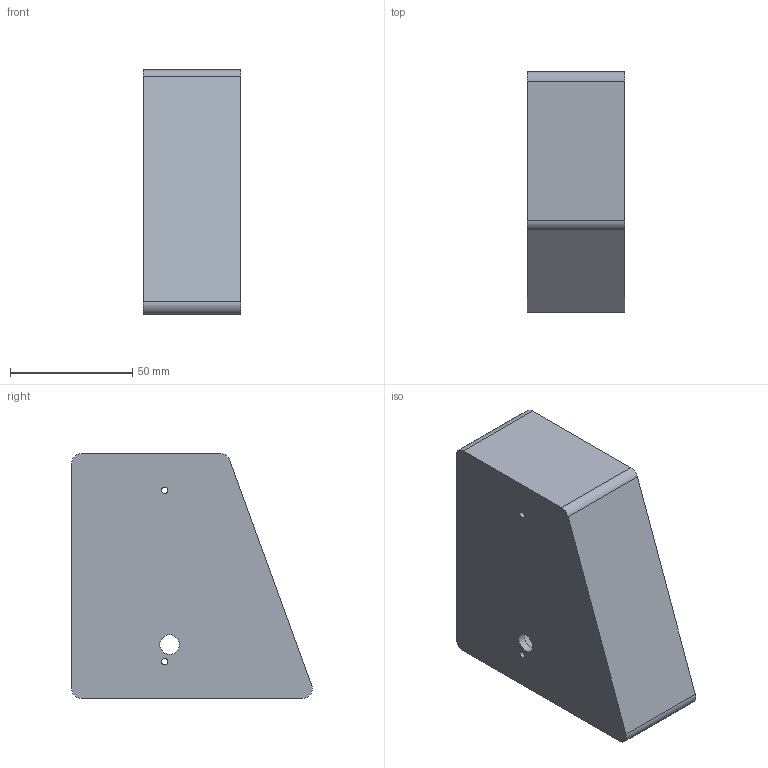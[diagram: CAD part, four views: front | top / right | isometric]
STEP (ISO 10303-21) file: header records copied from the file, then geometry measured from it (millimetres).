
FILE_DESCRIPTION(('Open CASCADE Model'),'2;1');
FILE_NAME('Open CASCADE Shape Model','2026-10-07T20:49:38',('Author'),( 'Open CASCADE'),'Open CASCADE STEP processor 7.9','Open CASCADE 7.9' ,'Unknown');
FILE_SCHEMA(('AUTOMOTIVE_DESIGN { 1 0 10303 214 1 1 1 1 }'));
Length unit declared in the file: millimetre
Products named in the file (1): Open CASCADE STEP translator 7.9 3
Bounding box: 40 x 98.29 x 100 mm (x, y, z)
Volume: 71835.2 mm3; surface area: 45440.6 mm2
Topology: 1 solids, 1 shells, 34 faces, 81 edges, 54 vertices
Faces by surface type: plane 19, cylinder 15
Full cylindrical faces by diameter (mm): 2.6 x6, 8 x1
Entity records: 2074 total; most frequent: CARTESIAN_POINT 436, DIRECTION 299, ORIENTED_EDGE 162, PCURVE 162, DEFINITIONAL_REPRESENTATION 162, LINE 151, VECTOR 151, EDGE_CURVE 81
